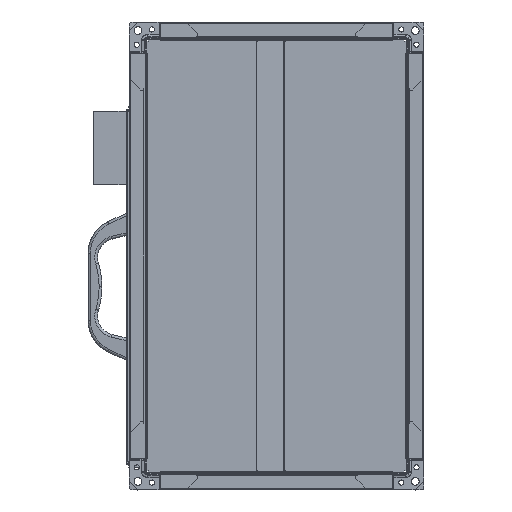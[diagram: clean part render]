
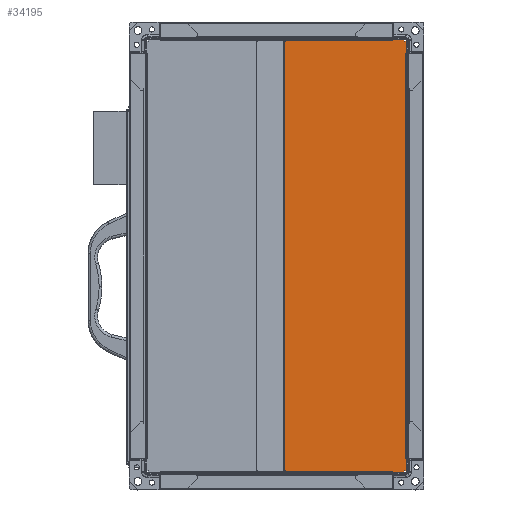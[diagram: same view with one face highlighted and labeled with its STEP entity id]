
A CAD part, left-side view. The second image highlights one B-rep face of the part: STEP entity #34195.
In plain terms, the highlighted planar face has unit normal (-1, 0, 0).
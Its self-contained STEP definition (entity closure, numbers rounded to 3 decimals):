
#2848=FACE_OUTER_BOUND('',#4651,.T.);
#4651=EDGE_LOOP('',(#24991,#24992,#24993,#24994,#24995,#24996,#24997,#24998,
#24999,#25000,#25001,#25002,#25003,#25004));
#7779=LINE('',#55676,#11007);
#7797=LINE('',#55715,#11025);
#7803=LINE('',#55728,#11031);
#7826=LINE('',#55777,#11054);
#7828=LINE('',#55781,#11056);
#7829=LINE('',#55783,#11057);
#7830=LINE('',#55785,#11058);
#7831=LINE('',#55787,#11059);
#7832=LINE('',#55788,#11060);
#7833=LINE('',#55789,#11061);
#7834=LINE('',#55791,#11062);
#7835=LINE('',#55793,#11063);
#7836=LINE('',#55794,#11064);
#7837=LINE('',#55795,#11065);
#11007=VECTOR('',#40095,10.);
#11025=VECTOR('',#40123,10.);
#11031=VECTOR('',#40131,10.);
#11054=VECTOR('',#40164,10.);
#11056=VECTOR('',#40168,10.);
#11057=VECTOR('',#40169,10.);
#11058=VECTOR('',#40170,10.);
#11059=VECTOR('',#40171,10.);
#11060=VECTOR('',#40172,10.);
#11061=VECTOR('',#40173,10.);
#11062=VECTOR('',#40174,10.);
#11063=VECTOR('',#40175,10.);
#11064=VECTOR('',#40176,10.);
#11065=VECTOR('',#40177,10.);
#14307=VERTEX_POINT('',#55674);
#14308=VERTEX_POINT('',#55675);
#14323=VERTEX_POINT('',#55713);
#14324=VERTEX_POINT('',#55714);
#14329=VERTEX_POINT('',#55725);
#14330=VERTEX_POINT('',#55727);
#14350=VERTEX_POINT('',#55774);
#14351=VERTEX_POINT('',#55776);
#14352=VERTEX_POINT('',#55780);
#14353=VERTEX_POINT('',#55782);
#14354=VERTEX_POINT('',#55784);
#14355=VERTEX_POINT('',#55786);
#14356=VERTEX_POINT('',#55790);
#14357=VERTEX_POINT('',#55792);
#18170=EDGE_CURVE('',#14307,#14308,#7779,.T.);
#18188=EDGE_CURVE('',#14323,#14324,#7797,.T.);
#18194=EDGE_CURVE('',#14329,#14330,#7803,.T.);
#18219=EDGE_CURVE('',#14350,#14351,#7826,.T.);
#18221=EDGE_CURVE('',#14352,#14308,#7828,.T.);
#18222=EDGE_CURVE('',#14353,#14352,#7829,.T.);
#18223=EDGE_CURVE('',#14353,#14354,#7830,.T.);
#18224=EDGE_CURVE('',#14355,#14354,#7831,.T.);
#18225=EDGE_CURVE('',#14330,#14355,#7832,.T.);
#18226=EDGE_CURVE('',#14329,#14323,#7833,.T.);
#18227=EDGE_CURVE('',#14356,#14324,#7834,.T.);
#18228=EDGE_CURVE('',#14357,#14356,#7835,.T.);
#18229=EDGE_CURVE('',#14357,#14351,#7836,.T.);
#18230=EDGE_CURVE('',#14307,#14350,#7837,.T.);
#24991=ORIENTED_EDGE('',*,*,#18170,.T.);
#24992=ORIENTED_EDGE('',*,*,#18221,.F.);
#24993=ORIENTED_EDGE('',*,*,#18222,.F.);
#24994=ORIENTED_EDGE('',*,*,#18223,.T.);
#24995=ORIENTED_EDGE('',*,*,#18224,.F.);
#24996=ORIENTED_EDGE('',*,*,#18225,.F.);
#24997=ORIENTED_EDGE('',*,*,#18194,.F.);
#24998=ORIENTED_EDGE('',*,*,#18226,.T.);
#24999=ORIENTED_EDGE('',*,*,#18188,.T.);
#25000=ORIENTED_EDGE('',*,*,#18227,.F.);
#25001=ORIENTED_EDGE('',*,*,#18228,.F.);
#25002=ORIENTED_EDGE('',*,*,#18229,.T.);
#25003=ORIENTED_EDGE('',*,*,#18219,.F.);
#25004=ORIENTED_EDGE('',*,*,#18230,.F.);
#31705=PLANE('',#35795);
#34195=ADVANCED_FACE('',(#2848),#31705,.F.);
#35795=AXIS2_PLACEMENT_3D('',#55779,#40166,#40167);
#40095=DIRECTION('',(0.,0.,-1.));
#40123=DIRECTION('',(0.,0.,1.));
#40131=DIRECTION('',(0.,-1.,0.));
#40164=DIRECTION('',(0.,0.,1.));
#40166=DIRECTION('center_axis',(1.,0.,0.));
#40167=DIRECTION('ref_axis',(0.,-1.,0.));
#40168=DIRECTION('',(0.,1.,0.));
#40169=DIRECTION('',(0.,0.,-1.));
#40170=DIRECTION('',(0.,-1.,0.));
#40171=DIRECTION('',(0.,1.,0.));
#40172=DIRECTION('',(0.,0.,-1.));
#40173=DIRECTION('',(0.,1.,0.));
#40174=DIRECTION('',(0.,-1.,0.));
#40175=DIRECTION('',(0.,0.,1.));
#40176=DIRECTION('',(0.,1.,0.));
#40177=DIRECTION('',(0.,1.,0.));
#55674=CARTESIAN_POINT('',(497.536,-173.342,-13.5));
#55675=CARTESIAN_POINT('',(497.536,-173.342,-15.5));
#55676=CARTESIAN_POINT('',(497.536,-173.342,109.75));
#55713=CARTESIAN_POINT('',(497.536,-310.842,481.5));
#55714=CARTESIAN_POINT('',(497.536,-310.842,483.5));
#55715=CARTESIAN_POINT('',(497.536,-310.842,358.25));
#55725=CARTESIAN_POINT('',(497.536,-311.342,481.5));
#55727=CARTESIAN_POINT('',(497.536,-313.342,481.5));
#55728=CARTESIAN_POINT('',(497.536,-277.253,481.5));
#55774=CARTESIAN_POINT('',(497.536,-172.342,-13.5));
#55776=CARTESIAN_POINT('',(497.536,-172.342,481.5));
#55777=CARTESIAN_POINT('',(497.536,-172.342,234.));
#55779=CARTESIAN_POINT('Origin',(497.536,-242.211,234.));
#55780=CARTESIAN_POINT('',(497.536,-310.842,-15.5));
#55781=CARTESIAN_POINT('',(497.536,-207.717,-15.5));
#55782=CARTESIAN_POINT('',(497.536,-310.842,-13.5));
#55783=CARTESIAN_POINT('',(497.536,-310.842,109.25));
#55784=CARTESIAN_POINT('',(497.536,-311.342,-13.5));
#55785=CARTESIAN_POINT('',(497.536,-276.776,-13.5));
#55786=CARTESIAN_POINT('',(497.536,-313.342,-13.5));
#55787=CARTESIAN_POINT('',(497.536,-277.253,-13.5));
#55788=CARTESIAN_POINT('',(497.536,-313.342,234.));
#55789=CARTESIAN_POINT('',(497.536,-207.776,481.5));
#55790=CARTESIAN_POINT('',(497.536,-173.342,483.5));
#55791=CARTESIAN_POINT('',(497.536,-276.467,483.5));
#55792=CARTESIAN_POINT('',(497.536,-173.342,481.5));
#55793=CARTESIAN_POINT('',(497.536,-173.342,358.75));
#55794=CARTESIAN_POINT('',(497.536,-207.3,481.5));
#55795=CARTESIAN_POINT('',(497.536,-207.3,-13.5));
